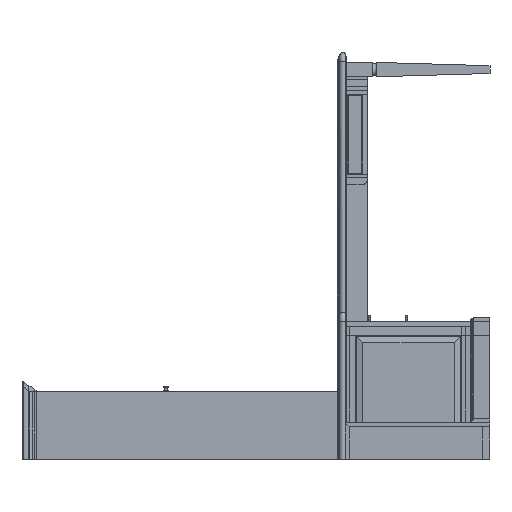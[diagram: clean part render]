
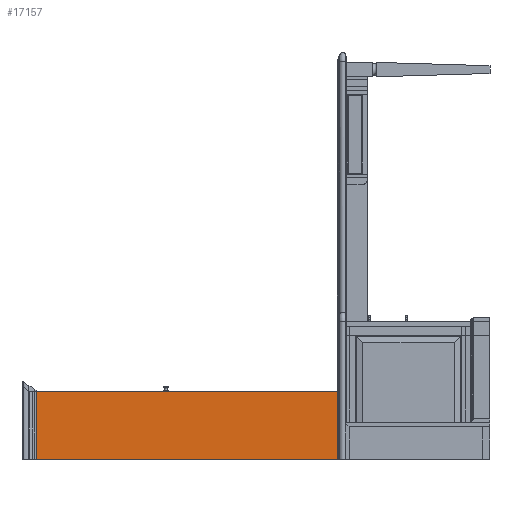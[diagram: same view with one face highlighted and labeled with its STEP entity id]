
A CAD part, left-side view. The second image highlights one B-rep face of the part: STEP entity #17157.
In plain terms, the highlighted planar face has unit normal (-1, 0, 0).
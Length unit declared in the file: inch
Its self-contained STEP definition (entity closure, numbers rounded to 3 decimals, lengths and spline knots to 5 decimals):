
#4281=FACE_OUTER_BOUND('',#5183,.T.);
#5183=EDGE_LOOP('',(#15066,#15067,#15068,#15069));
#6763=LINE('',#28936,#8476);
#6766=LINE('',#28942,#8479);
#6769=LINE('',#28948,#8482);
#6772=LINE('',#28952,#8485);
#8476=VECTOR('',#22649,0.3937);
#8479=VECTOR('',#22654,0.3937);
#8482=VECTOR('',#22659,0.3937);
#8485=VECTOR('',#22664,0.3937);
#9775=VERTEX_POINT('',#28933);
#9776=VERTEX_POINT('',#28935);
#9778=VERTEX_POINT('',#28941);
#9780=VERTEX_POINT('',#28947);
#11555=EDGE_CURVE('',#9776,#9775,#6763,.T.);
#11558=EDGE_CURVE('',#9778,#9776,#6766,.T.);
#11561=EDGE_CURVE('',#9780,#9778,#6769,.T.);
#11564=EDGE_CURVE('',#9775,#9780,#6772,.T.);
#15066=ORIENTED_EDGE('',*,*,#11564,.T.);
#15067=ORIENTED_EDGE('',*,*,#11561,.T.);
#15068=ORIENTED_EDGE('',*,*,#11558,.T.);
#15069=ORIENTED_EDGE('',*,*,#11555,.T.);
#16276=PLANE('',#18990);
#17157=ADVANCED_FACE('',(#4281),#16276,.T.);
#18990=AXIS2_PLACEMENT_3D('',#28953,#22665,#22666);
#22649=DIRECTION('',(0.,1.,0.));
#22654=DIRECTION('',(0.,0.,1.));
#22659=DIRECTION('',(0.,-1.,0.));
#22664=DIRECTION('',(0.,0.,-1.));
#22665=DIRECTION('center_axis',(-1.,0.,0.));
#22666=DIRECTION('ref_axis',(0.,0.,1.));
#28933=CARTESIAN_POINT('',(-105.5,27.,12.25));
#28935=CARTESIAN_POINT('',(-105.5,-30.75,12.25));
#28936=CARTESIAN_POINT('',(-105.5,-30.75,12.25));
#28941=CARTESIAN_POINT('',(-105.5,-30.75,-0.75));
#28942=CARTESIAN_POINT('',(-105.5,-30.75,-0.75));
#28947=CARTESIAN_POINT('',(-105.5,27.,-0.75));
#28948=CARTESIAN_POINT('',(-105.5,27.,-0.75));
#28952=CARTESIAN_POINT('',(-105.5,27.,12.25));
#28953=CARTESIAN_POINT('Origin',(-105.5,-1.875,5.75));
